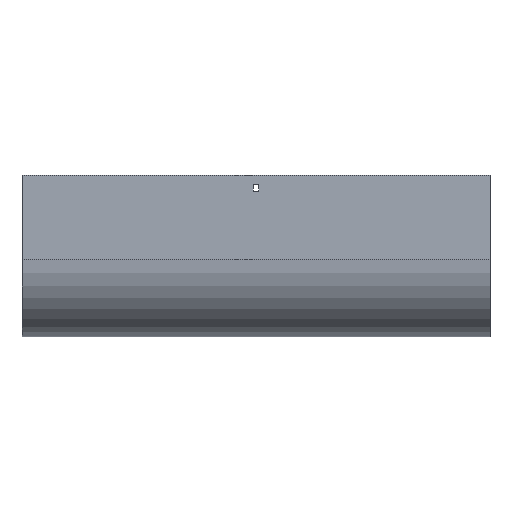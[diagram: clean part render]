
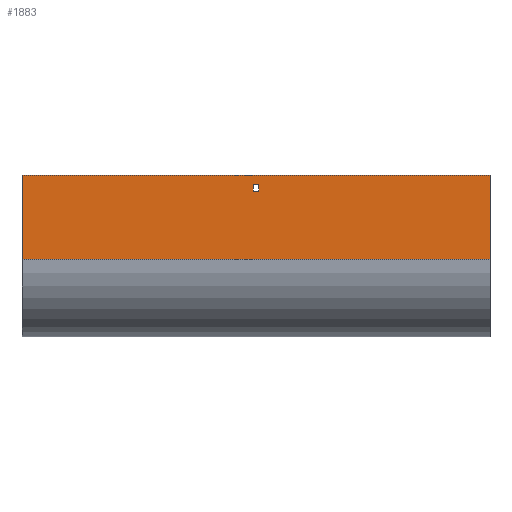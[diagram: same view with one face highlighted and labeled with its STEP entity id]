
A CAD part, front view. The second image highlights one B-rep face of the part: STEP entity #1883.
In plain terms, the highlighted planar face has unit normal (0, -1, 0).
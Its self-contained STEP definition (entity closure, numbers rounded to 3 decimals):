
#10 = CARTESIAN_POINT ( 'NONE',  ( 302., -79., -109. ) ) ;
#16 = LINE ( 'NONE', #467, #987 ) ;
#75 = CARTESIAN_POINT ( 'NONE',  ( -3.25, -79., -12. ) ) ;
#115 = DIRECTION ( 'NONE',  ( -1., 0., 0. ) ) ;
#128 = ORIENTED_EDGE ( 'NONE', *, *, #1647, .T. ) ;
#177 = VECTOR ( 'NONE', #1306, 1000. ) ;
#192 = DIRECTION ( 'NONE',  ( 1., 0., 0. ) ) ;
#238 = ORIENTED_EDGE ( 'NONE', *, *, #1715, .T. ) ;
#259 = VERTEX_POINT ( 'NONE', #1240 ) ;
#286 = EDGE_CURVE ( 'NONE', #498, #1153, #806, .T. ) ;
#355 = CARTESIAN_POINT ( 'NONE',  ( 302., -79., -109. ) ) ;
#382 = CARTESIAN_POINT ( 'NONE',  ( 302., -79., -109. ) ) ;
#395 = LINE ( 'NONE', #543, #1199 ) ;
#460 = EDGE_CURVE ( 'NONE', #259, #498, #395, .T. ) ;
#464 = VERTEX_POINT ( 'NONE', #708 ) ;
#467 = CARTESIAN_POINT ( 'NONE',  ( -3.25, -79., -12. ) ) ;
#489 = CARTESIAN_POINT ( 'NONE',  ( -302., -79., 0. ) ) ;
#498 = VERTEX_POINT ( 'NONE', #1918 ) ;
#514 = CARTESIAN_POINT ( 'NONE',  ( 3.25, -79., -21. ) ) ;
#540 = EDGE_LOOP ( 'NONE', ( #1298, #1754, #1591, #238 ) ) ;
#541 = DIRECTION ( 'NONE',  ( 0., 0., -1. ) ) ;
#543 = CARTESIAN_POINT ( 'NONE',  ( -3.25, -79., -21. ) ) ;
#650 = VERTEX_POINT ( 'NONE', #489 ) ;
#695 = VERTEX_POINT ( 'NONE', #1534 ) ;
#697 = VECTOR ( 'NONE', #1639, 1000. ) ;
#705 = CARTESIAN_POINT ( 'NONE',  ( -302., -79., -109. ) ) ;
#708 = CARTESIAN_POINT ( 'NONE',  ( 302., -79., 0. ) ) ;
#761 = DIRECTION ( 'NONE',  ( 0., 1., 0. ) ) ;
#806 = LINE ( 'NONE', #971, #1705 ) ;
#826 = EDGE_CURVE ( 'NONE', #650, #882, #1603, .T. ) ;
#829 = EDGE_CURVE ( 'NONE', #464, #695, #994, .T. ) ;
#882 = VERTEX_POINT ( 'NONE', #1281 ) ;
#917 = CARTESIAN_POINT ( 'NONE',  ( 3.25, -79., -12. ) ) ;
#971 = CARTESIAN_POINT ( 'NONE',  ( -3.25, -79., -21. ) ) ;
#987 = VECTOR ( 'NONE', #192, 1000. ) ;
#994 = LINE ( 'NONE', #382, #177 ) ;
#999 = ORIENTED_EDGE ( 'NONE', *, *, #1440, .T. ) ;
#1030 = CARTESIAN_POINT ( 'NONE',  ( 302., -79., 0. ) ) ;
#1060 = EDGE_LOOP ( 'NONE', ( #1897, #1444, #999, #128 ) ) ;
#1075 = EDGE_CURVE ( 'NONE', #695, #882, #1106, .T. ) ;
#1106 = LINE ( 'NONE', #355, #1255 ) ;
#1153 = VERTEX_POINT ( 'NONE', #75 ) ;
#1199 = VECTOR ( 'NONE', #115, 1000. ) ;
#1213 = AXIS2_PLACEMENT_3D ( 'NONE', #10, #761, #1818 ) ;
#1240 = CARTESIAN_POINT ( 'NONE',  ( 3.25, -79., -21. ) ) ;
#1255 = VECTOR ( 'NONE', #1688, 1000. ) ;
#1264 = LINE ( 'NONE', #514, #1395 ) ;
#1281 = CARTESIAN_POINT ( 'NONE',  ( -302., -79., -109. ) ) ;
#1298 = ORIENTED_EDGE ( 'NONE', *, *, #826, .T. ) ;
#1306 = DIRECTION ( 'NONE',  ( 0., 0., -1. ) ) ;
#1355 = FACE_OUTER_BOUND ( 'NONE', #540, .T. ) ;
#1395 = VECTOR ( 'NONE', #1904, 1000. ) ;
#1440 = EDGE_CURVE ( 'NONE', #1153, #1889, #16, .T. ) ;
#1444 = ORIENTED_EDGE ( 'NONE', *, *, #286, .T. ) ;
#1449 = LINE ( 'NONE', #1030, #697 ) ;
#1503 = FACE_BOUND ( 'NONE', #1060, .T. ) ;
#1534 = CARTESIAN_POINT ( 'NONE',  ( 302., -79., -109. ) ) ;
#1591 = ORIENTED_EDGE ( 'NONE', *, *, #829, .F. ) ;
#1603 = LINE ( 'NONE', #705, #1849 ) ;
#1639 = DIRECTION ( 'NONE',  ( -1., 0., 0. ) ) ;
#1647 = EDGE_CURVE ( 'NONE', #1889, #259, #1264, .T. ) ;
#1688 = DIRECTION ( 'NONE',  ( -1., 0., 0. ) ) ;
#1705 = VECTOR ( 'NONE', #1868, 1000. ) ;
#1715 = EDGE_CURVE ( 'NONE', #464, #650, #1449, .T. ) ;
#1754 = ORIENTED_EDGE ( 'NONE', *, *, #1075, .F. ) ;
#1808 = PLANE ( 'NONE',  #1213 ) ;
#1818 = DIRECTION ( 'NONE',  ( 0., 0., 1. ) ) ;
#1849 = VECTOR ( 'NONE', #541, 1000. ) ;
#1868 = DIRECTION ( 'NONE',  ( 0., 0., 1. ) ) ;
#1883 = ADVANCED_FACE ( 'NONE', ( #1503, #1355 ), #1808, .F. ) ;
#1889 = VERTEX_POINT ( 'NONE', #917 ) ;
#1897 = ORIENTED_EDGE ( 'NONE', *, *, #460, .T. ) ;
#1904 = DIRECTION ( 'NONE',  ( 0., 0., -1. ) ) ;
#1918 = CARTESIAN_POINT ( 'NONE',  ( -3.25, -79., -21. ) ) ;
